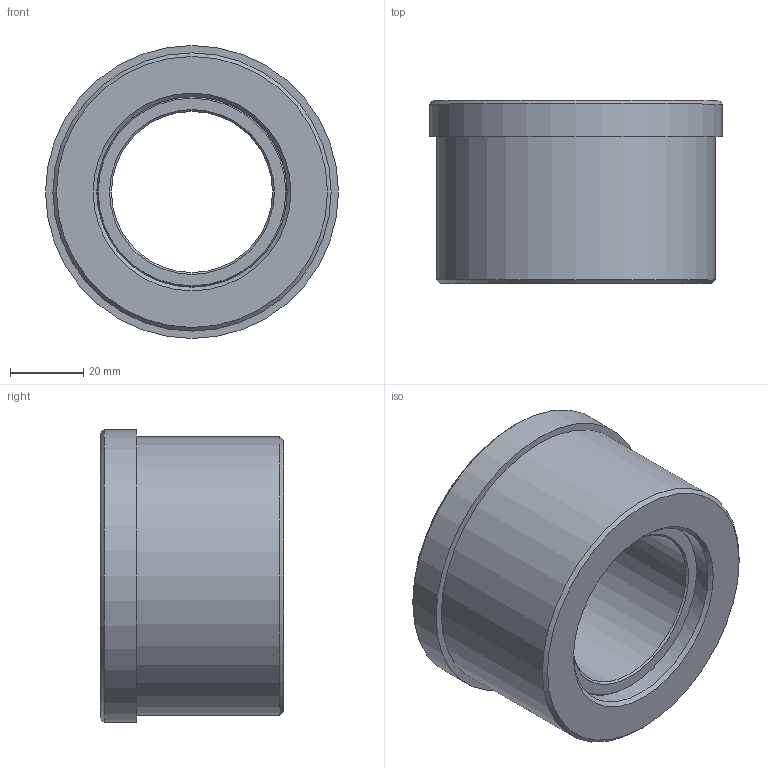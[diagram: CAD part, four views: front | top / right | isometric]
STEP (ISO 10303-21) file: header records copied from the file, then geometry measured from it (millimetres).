
FILE_DESCRIPTION(('STEP AP214'),'1');
FILE_NAME('C:/Projets/Serie 10.xx.xx/10.10.04.step','2011-11-10T15:37:21',(' '),(' '),'Spatial InterOp 3D',' ',' ');
FILE_SCHEMA(('automotive_design'));
Length unit declared in the file: metre
Products named in the file (3): rotule 04; boitier 04; 1
Bounding box: 80 x 50 x 80 mm (x, y, z)
Volume: 141451.8 mm3; surface area: 41368.2 mm2
Topology: 2 solids, 2 shells, 40 faces, 504 edges, 867 vertices
Faces by surface type: plane 13, cone 13, cylinder 12, sphere 2
Full cylindrical faces by diameter (mm): 44 x1, 52 x1, 76 x1, 80 x1
Entity records: 6451 total; most frequent: CARTESIAN_POINT 654, DIRECTION 620, STYLED_ITEM 457, PRESENTATION_STYLE_ASSIGNMENT 457, COLOUR_RGB 457, LINE 434, VECTOR 434, TRIMMED_CURVE 417
